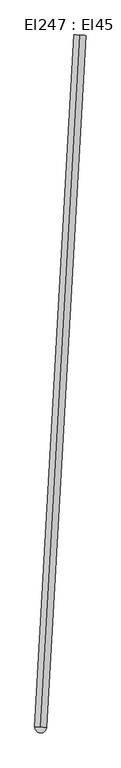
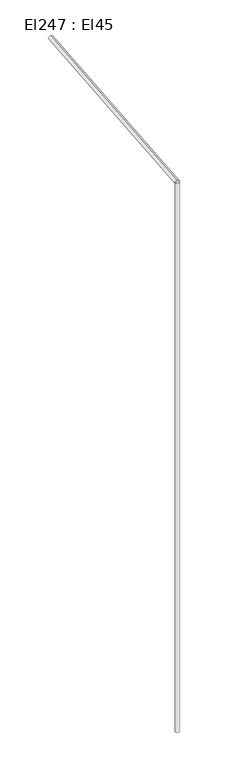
"""IFC4 building model written with IfcOpenShell, lengths in millimetres: cable carrier segment geometry, El247 : El45."""

from ifc_helpers import new_model, si_unit, point, frame, frame_2d, origin, place, context, project, spatial, circle_curve, trimmed, segment, composite_curve, outline, extrude, source, transform, mapped, element, save


def el247_el45_ffb3c4fe(model_context):
    return source(origin(), model_context, "Body", "SweptSolid", [
        extrude(outline(composite_curve([segment(trimmed(circle_curve(frame_2d((9312.5956511, 6866.0571745)), 9.5), [point((9303.0956511, 6866.0571745))], [point((9322.0956511, 6866.0571745))], False, "CARTESIAN"), True, "CONTINUOUS"), segment(trimmed(circle_curve(frame_2d((9312.5956511, 6866.0571745)), 9.5), [point((9322.0956511, 6866.0571745))], [point((9303.0956511, 6866.0571745))], False, "CARTESIAN"), True, "CONTINUOUS")], self_intersect=False)), frame((0.0, 0.0, 1830.0), z_axis=(0.0, 0.0, 1.0), x_axis=(1.0, 0.0, 0.0)), (0.0, 0.0, 1.0), 2620.0),
        extrude(outline(composite_curve([segment(trimmed(circle_curve(frame_2d((0.0, -9.5)), 9.5), [point((0.0, -19.0))], [point((0.0, 0.0))], False, "CARTESIAN"), True, "CONTINUOUS"), segment(trimmed(circle_curve(frame_2d((0.0, -9.5)), 9.5), [point((0.0, 0.0))], [point((0.0, -19.0))], False, "CARTESIAN"), True, "CONTINUOUS")], self_intersect=False)), frame((9312.5953548, 6866.0535419, 4459.5), z_axis=(0.05709992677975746, 0.9983684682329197, 0.0), x_axis=(-0.9983684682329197, 0.05709992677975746, 0.0)), (0.0, 0.0, 1.0), 1102.87),
    ])


if __name__ == "__main__":
    model = new_model("IFC4")
    model_context = context("Model", 3, world=origin())
    ifc_project = project(units=[si_unit("LENGTHUNIT", "METRE", prefix="MILLI")], contexts=[model_context])
    site = spatial("IfcSite", under=ifc_project)
    building = spatial("IfcBuilding", under=site)
    placement = place(None, origin())
    el247_el45_shape = el247_el45_ffb3c4fe(model_context)
    element("IfcCableCarrierSegment", 1, ObjectType="El247 : El45", at=placement, inside=building, context=model_context, shape_type="MappedRepresentation", body=[
        mapped(el247_el45_shape, transform((0.0, 0.0, 0.0), x_axis=(1.0, 0.0, 0.0), y_axis=(0.0, 1.0, 0.0), z_axis=(0.0, 0.0, 1.0))),
    ])
    save(model, "model.ifc")
